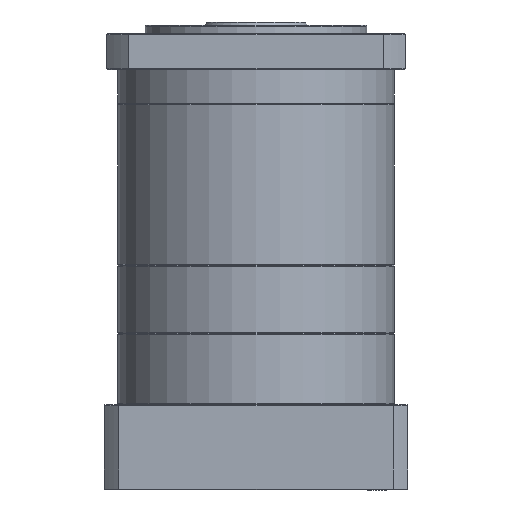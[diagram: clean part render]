
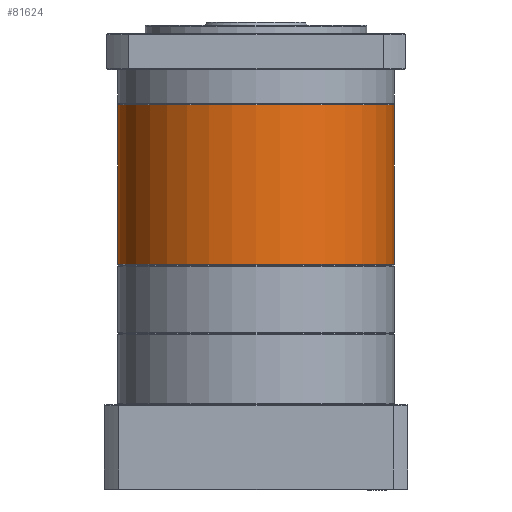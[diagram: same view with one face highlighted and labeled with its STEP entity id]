
A CAD part, front view. The second image highlights one B-rep face of the part: STEP entity #81624.
In plain terms, the highlighted cylindrical face has radius 81 mm (diameter 162 mm), a partial arc.
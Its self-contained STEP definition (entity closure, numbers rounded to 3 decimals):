
#1027 = DIRECTION ( 'NONE',  ( 0., 0., -1. ) ) ;
#1035 = LINE ( 'NONE', #63405, #44865 ) ;
#1464 = CARTESIAN_POINT ( 'NONE',  ( 196.446, 56.633, 61.988 ) ) ;
#2282 = DIRECTION ( 'NONE',  ( 1., 0., 0. ) ) ;
#4581 = ORIENTED_EDGE ( 'NONE', *, *, #57911, .T. ) ;
#6281 = VECTOR ( 'NONE', #19318, 1000. ) ;
#12121 = CARTESIAN_POINT ( 'NONE',  ( 277.446, 56.633, 62.488 ) ) ;
#12828 = EDGE_CURVE ( 'NONE', #31290, #92188, #64710, .T. ) ;
#13019 = CARTESIAN_POINT ( 'NONE',  ( 277.446, 56.633, 61.988 ) ) ;
#14214 = CARTESIAN_POINT ( 'NONE',  ( 115.446, 56.633, 62.488 ) ) ;
#15302 = EDGE_CURVE ( 'NONE', #31290, #45031, #1035, .T. ) ;
#17308 = ORIENTED_EDGE ( 'NONE', *, *, #15302, .F. ) ;
#19318 = DIRECTION ( 'NONE',  ( 0., 0., 1. ) ) ;
#19749 = DIRECTION ( 'NONE',  ( 0., 0., 1. ) ) ;
#20326 = AXIS2_PLACEMENT_3D ( 'NONE', #1464, #37008, #51767 ) ;
#21869 = CARTESIAN_POINT ( 'NONE',  ( 277.446, 56.633, 155.988 ) ) ;
#30602 = CARTESIAN_POINT ( 'NONE',  ( 196.446, 56.633, 155.988 ) ) ;
#31290 = VERTEX_POINT ( 'NONE', #14214 ) ;
#32230 = VERTEX_POINT ( 'NONE', #21869 ) ;
#32705 = CYLINDRICAL_SURFACE ( 'NONE', #20326, 81. ) ;
#37008 = DIRECTION ( 'NONE',  ( 0., 0., 1. ) ) ;
#37315 = EDGE_CURVE ( 'NONE', #92188, #32230, #44474, .T. ) ;
#40803 = EDGE_LOOP ( 'NONE', ( #17308, #55482, #66459, #4581 ) ) ;
#44474 = LINE ( 'NONE', #13019, #6281 ) ;
#44865 = VECTOR ( 'NONE', #19749, 1000. ) ;
#45031 = VERTEX_POINT ( 'NONE', #56854 ) ;
#51767 = DIRECTION ( 'NONE',  ( 1., 0., 0. ) ) ;
#55482 = ORIENTED_EDGE ( 'NONE', *, *, #12828, .T. ) ;
#56854 = CARTESIAN_POINT ( 'NONE',  ( 115.446, 56.633, 155.988 ) ) ;
#57911 = EDGE_CURVE ( 'NONE', #32230, #45031, #69919, .T. ) ;
#60867 = AXIS2_PLACEMENT_3D ( 'NONE', #73976, #67087, #2282 ) ;
#63405 = CARTESIAN_POINT ( 'NONE',  ( 115.446, 56.633, 61.988 ) ) ;
#64710 = CIRCLE ( 'NONE', #60867, 81. ) ;
#66459 = ORIENTED_EDGE ( 'NONE', *, *, #37315, .T. ) ;
#67087 = DIRECTION ( 'NONE',  ( 0., 0., 1. ) ) ;
#67227 = AXIS2_PLACEMENT_3D ( 'NONE', #30602, #1027, #80930 ) ;
#69919 = CIRCLE ( 'NONE', #67227, 81. ) ;
#73976 = CARTESIAN_POINT ( 'NONE',  ( 196.446, 56.633, 62.488 ) ) ;
#80930 = DIRECTION ( 'NONE',  ( 1., 0., 0. ) ) ;
#81624 = ADVANCED_FACE ( 'NONE', ( #85698 ), #32705, .T. ) ;
#85698 = FACE_OUTER_BOUND ( 'NONE', #40803, .T. ) ;
#92188 = VERTEX_POINT ( 'NONE', #12121 ) ;
